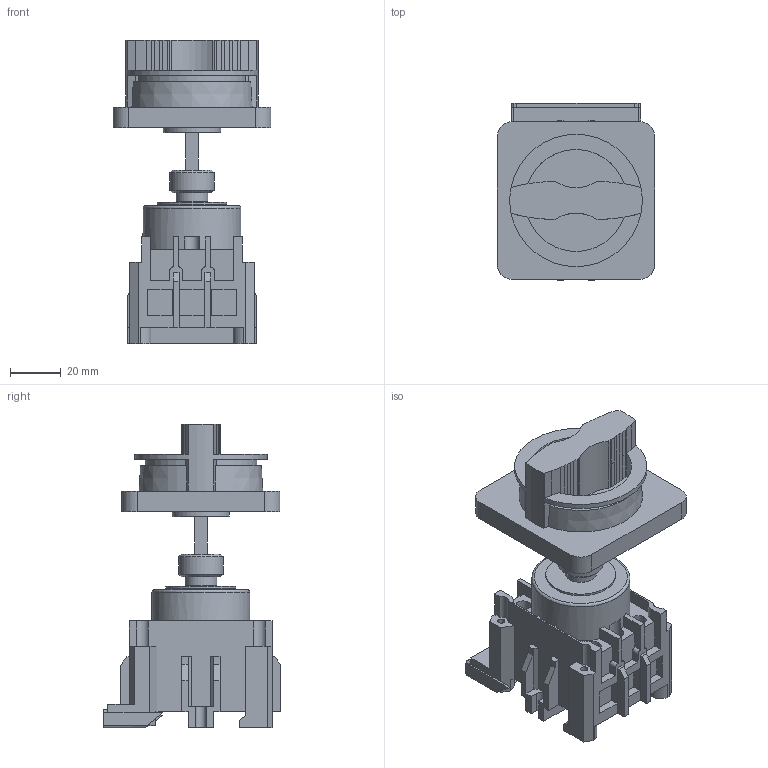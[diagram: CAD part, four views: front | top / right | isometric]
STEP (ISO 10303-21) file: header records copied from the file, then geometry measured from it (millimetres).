
FILE_DESCRIPTION (( 'STEP AP203' ), '1' );
FILE_NAME ('OptiSwitch DI-L1-25-40-3P (m=0,2羱).STEP', '2023-02-25T12:46:38', ( '砐錪賧瘔蠈錪' ), ( '' ), 'SwSTEP 2.0', 'SolidWorks 2018', '' );
FILE_SCHEMA (( 'CONFIG_CONTROL_DESIGN' ));
Length unit declared in the file: millimetre
Products named in the file (1): OptiSwitch DI-L1-25-40-3P (m=0,2羱)
Bounding box: 62 x 69.87 x 119.25 mm (x, y, z)
Volume: 158430.3 mm3; surface area: 42578.6 mm2
Topology: 1 solids, 1 shells, 388 faces, 1108 edges, 735 vertices
Faces by surface type: plane 259, cylinder 77, bspline 43, cone 7, torus 2
Full cylindrical faces by diameter (mm): 2.8 x4, 5.5 x4, 6 x6, 11.458 x1, 12.458 x1, 17.458 x1, 22.458 x1, 24.458 x1, 38.5 x1, 52 x1
Entity records: 12955 total; most frequent: CARTESIAN_POINT 3092, ORIENTED_EDGE 2140, DIRECTION 1840, EDGE_CURVE 1070, VECTOR 748, LINE 748, VERTEX_POINT 724, AXIS2_PLACEMENT_3D 546
